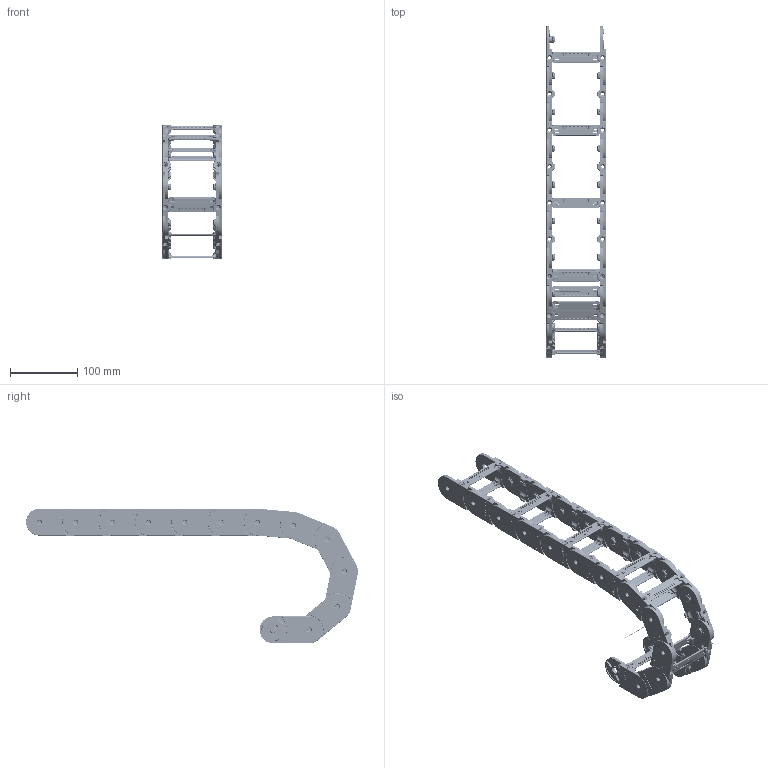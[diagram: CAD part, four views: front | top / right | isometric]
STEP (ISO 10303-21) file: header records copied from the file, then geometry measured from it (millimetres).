
FILE_DESCRIPTION((''),'2;1');
FILE_NAME('E:\Uebbing\PARAMETERKETTEN\PKK\PKK 140\PKK 140 R80 vereinfacht.stp','2018-09-25T10:47:50',('Nutzer'),(''),'Autodesk Inventor 10','Autodesk Inventor 10','');
FILE_SCHEMA(('AUTOMOTIVE_DESIGN { 1 0 10303 214 1 1 1 1 }'));
Length unit declared in the file: millimetre
Products named in the file (8): PKK 140 PARAMETRISCH; Achse; PKK 140 Glied; PKK 120 Steg 70; PKK 140 Hauptlasche R50 3 Anschläge; PKK 120 Spreizriegel; PKK 140 Glied ohne STEG; PKK 140 Hauptlasche R60
Assembly tree (23 placements, depth 3):
  PKK 140 PARAMETRISCH
    Achse
    PKK 140 Glied  x7
      PKK 120 Steg 70
      PKK 140 Hauptlasche R50 3 Anschläge
      PKK 120 Spreizriegel
    PKK 140 Glied ohne STEG  x5
      PKK 140 Hauptlasche R60
      PKK 120 Spreizriegel
Bounding box: 88 x 493.42 x 200 mm (x, y, z)
Volume: 444341.2 mm3; surface area: 299494.9 mm2
Topology: 63 solids, 63 shells, 18343 faces, 48928 edges, 31633 vertices
Faces by surface type: plane 9018, cylinder 5085, bspline 3010, torus 730, cone 376, sphere 124
Full cylindrical faces by diameter (mm): 1 x1, 1.474 x24, 2.589 x24, 4.2 x24, 6 x24, 8.2 x24, 10 x24, 10.1 x24
Entity records: 47308 total; most frequent: CARTESIAN_POINT 13722, ORIENTED_EDGE 7224, DIRECTION 6427, EDGE_CURVE 3612, VERTEX_POINT 2365, VECTOR 2299, LINE 2299, AXIS2_PLACEMENT_3D 2064
